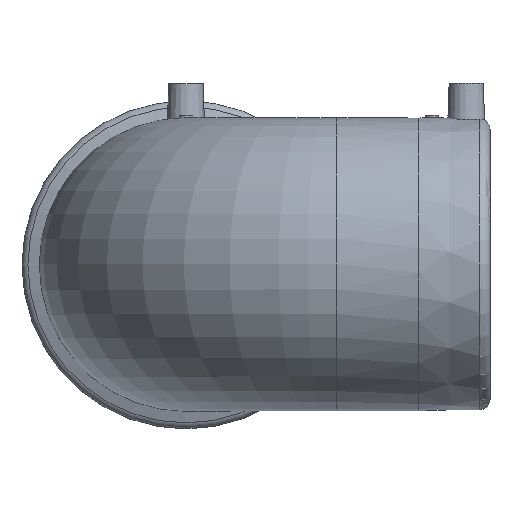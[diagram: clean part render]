
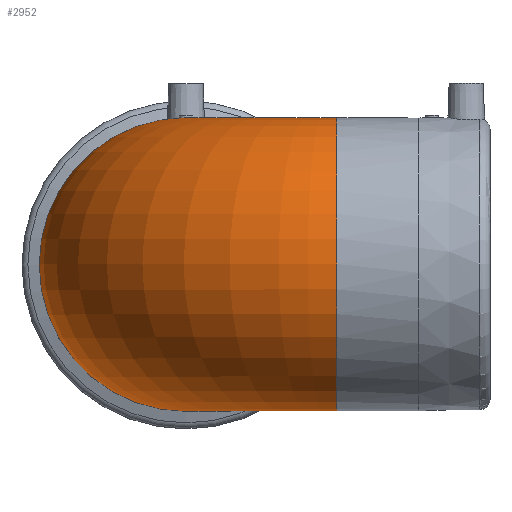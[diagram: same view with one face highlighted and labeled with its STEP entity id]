
A CAD part, top view. The second image highlights one B-rep face of the part: STEP entity #2952.
In plain terms, the highlighted toroidal (fillet/blend) face has major radius 70 mm and minor radius 68 mm.
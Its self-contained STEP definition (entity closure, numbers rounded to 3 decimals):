
#536=TOROIDAL_SURFACE('',#3741,70.,68.);
#556=CIRCLE('',#3731,68.);
#558=CIRCLE('',#3735,68.);
#778=ORIENTED_EDGE('',*,*,#1605,.F.);
#779=ORIENTED_EDGE('',*,*,#1607,.T.);
#1605=EDGE_CURVE('',#2025,#2025,#556,.F.);
#1607=EDGE_CURVE('',#2027,#2027,#558,.F.);
#2025=VERTEX_POINT('',#5144);
#2027=VERTEX_POINT('',#5150);
#2385=EDGE_LOOP('',(#778));
#2386=EDGE_LOOP('',(#779));
#2662=FACE_BOUND('',#2385,.T.);
#2663=FACE_BOUND('',#2386,.T.);
#2952=ADVANCED_FACE('',(#2662,#2663),#536,.T.);
#3731=AXIS2_PLACEMENT_3D('',#5143,#4138,#4139);
#3735=AXIS2_PLACEMENT_3D('',#5149,#4146,#4147);
#3741=AXIS2_PLACEMENT_3D('',#5186,#4158,#4159);
#4138=DIRECTION('',(-1.,0.,0.));
#4139=DIRECTION('',(0.,0.,-1.));
#4146=DIRECTION('',(0.,0.,-1.));
#4147=DIRECTION('',(1.,0.,0.));
#4158=DIRECTION('',(0.,1.,0.));
#4159=DIRECTION('',(0.,0.,1.));
#5143=CARTESIAN_POINT('',(70.,0.,141.));
#5144=CARTESIAN_POINT('',(70.,0.,73.));
#5149=CARTESIAN_POINT('',(0.,0.,71.));
#5150=CARTESIAN_POINT('',(68.,0.,71.));
#5186=CARTESIAN_POINT('',(70.,0.,71.));
